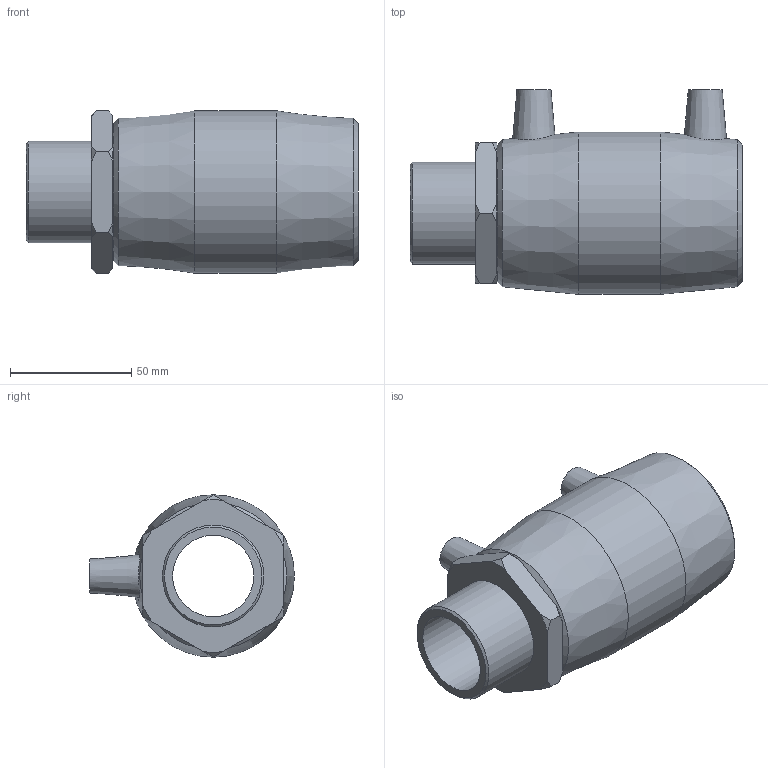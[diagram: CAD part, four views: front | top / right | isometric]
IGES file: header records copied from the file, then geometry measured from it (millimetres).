
Global section: file name: 492104050013.ipt; native system: Autodesk Inventor 2015; preprocessor: unknown; author: KIM; date: 20200202.122317; units: millimetre
Bounding box: 137 x 84.5 x 67 mm (x, y, z)
Volume: 212250.2 mm3; surface area: 54607.8 mm2
Topology: 1 solids, 2 shells, 54 faces, 129 edges, 88 vertices
Faces by surface type: plane 21, cone 19, revolution 8, cylinder 6
Full cylindrical faces by diameter (mm): 4 x2, 41.91 x1, 50 x2, 67 x1
